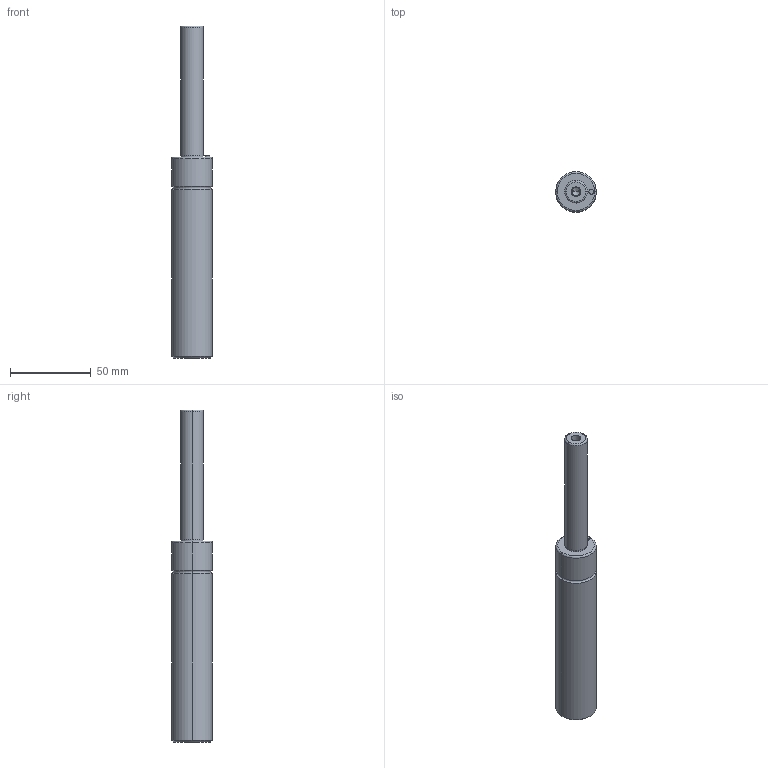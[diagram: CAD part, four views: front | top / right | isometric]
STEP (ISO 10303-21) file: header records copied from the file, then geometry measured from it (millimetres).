
FILE_DESCRIPTION(/* description */ (''),/* implementation_level */ '2;1');
FILE_NAME(/* name */ '3d_mgsa25-80_04556_r00.stp',/* time_stamp */ '2011-01-10T14:13:36+09:00',/* author */ ('MISUMI'),/* organization */ (''),/* preprocessor_version */ 'ST-DEVELOPER v11',/* originating_system */ 'UGS - NX 5.0',/* authorisation */ '');
FILE_SCHEMA (('CONFIG_CONTROL_DESIGN'));
Length unit declared in the file: millimetre
Products named in the file (1): 3d_mgsa25-80_04556_r00
Bounding box: 25 x 25 x 205 mm (x, y, z)
Volume: 72668 mm3; surface area: 14601.8 mm2
Topology: 1 solids, 1 shells, 36 faces, 74 edges, 42 vertices
Faces by surface type: cylinder 18, torus 6, cone 6, plane 6
Entity records: 1014 total; most frequent: DIRECTION 190, CARTESIAN_POINT 149, ORIENTED_EDGE 140, AXIS2_PLACEMENT_3D 83, EDGE_CURVE 70, CIRCLE 46, EDGE_LOOP 42, VERTEX_POINT 42
